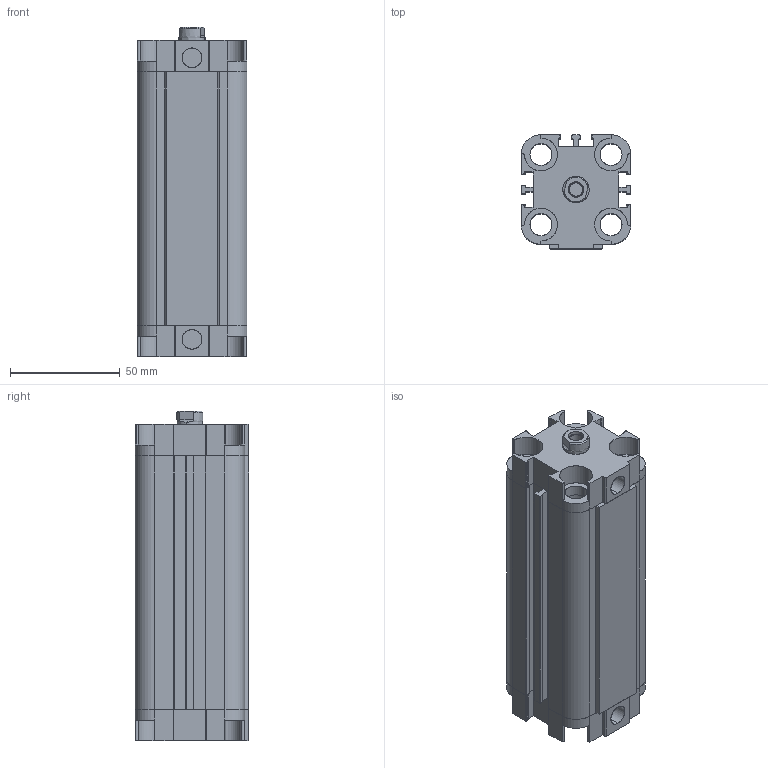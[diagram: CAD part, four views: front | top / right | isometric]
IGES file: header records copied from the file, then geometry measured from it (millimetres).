
Start section: SolidWorks IGES file using analytic representation for surfaces
Global section: file name: D:\ARICA 3D 禽Z軲LER\3D IGES\ADVU\ADVU 32\ADVU32X100-CYLINDER.IGS,1; native system: 5HSolidWorks 2013; preprocessor: SolidWorks 2013; author: user; date: 150520.142600; units: millimetre
Bounding box: 50 x 52 x 150.5 mm (x, y, z)
Surface area: 89547.8 mm2 (no closed solid volume)
Topology: 0 solids, 0 shells, 381 faces, 6648 edges, 6648 vertices
Faces by surface type: revolution 205, bspline 176
